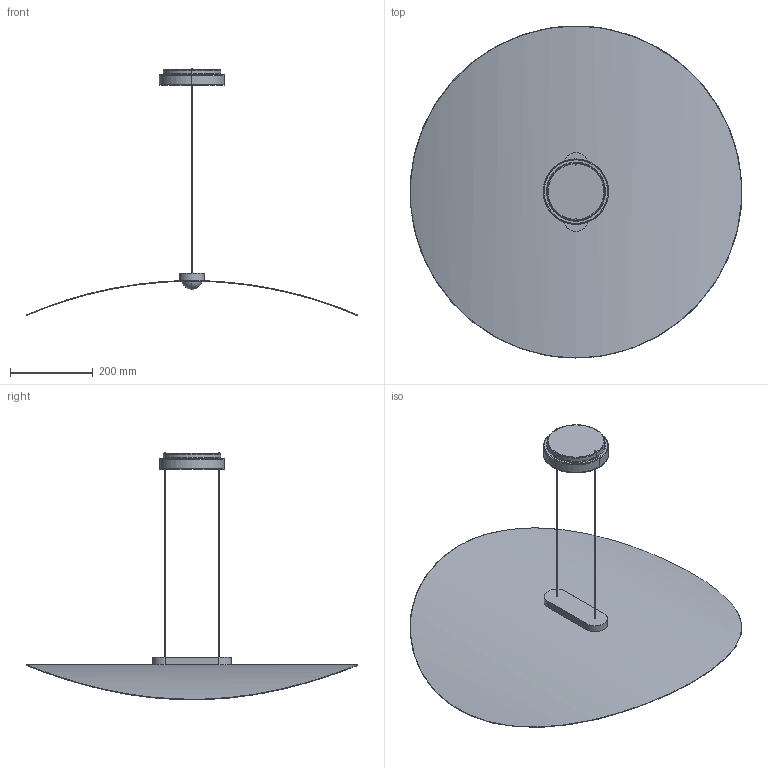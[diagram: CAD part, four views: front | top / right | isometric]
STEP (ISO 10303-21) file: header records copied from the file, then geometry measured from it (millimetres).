
FILE_DESCRIPTION((''),'2;1');
FILE_NAME('800SOSP','2025-05-14T11:51:36',('elena.baldelli'),(''),'CREO PARAMETRIC BY PTC INC, 2020354','CREO PARAMETRIC BY PTC INC, 2020354','');
FILE_SCHEMA(('CONFIG_CONTROL_DESIGN'));
Length unit declared in the file: millimetre
Products named in the file (1): 800SOSP
Bounding box: 798.67 x 800 x 596.32 mm (x, y, z)
Surface area: 1168299.6 mm2 (no closed solid volume)
Topology: 0 solids, 8 shells, 52 faces, 169 edges, 124 vertices
Faces by surface type: cylinder 20, plane 14, torus 12, bspline 2, sphere 2, cone 2
Entity records: 2645 total; most frequent: CARTESIAN_POINT 1160, DIRECTION 314, ORIENTED_EDGE 274, EDGE_CURVE 167, AXIS2_PLACEMENT_3D 135, VERTEX_POINT 124, CIRCLE 85, EDGE_LOOP 52
